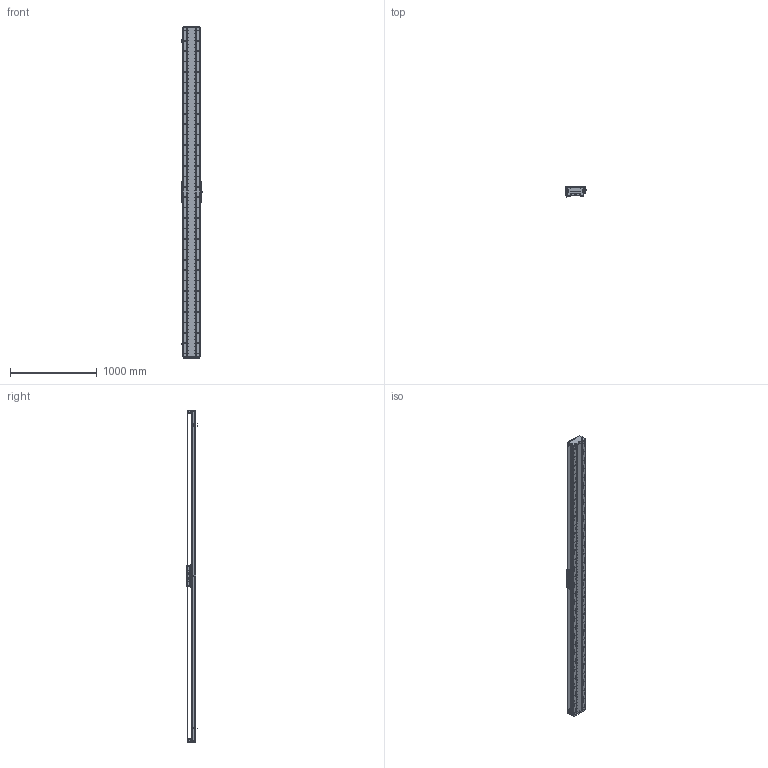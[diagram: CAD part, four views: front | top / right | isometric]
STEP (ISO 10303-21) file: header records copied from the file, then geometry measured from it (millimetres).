
FILE_DESCRIPTION (( 'STEP AP203' ), '1' );
FILE_NAME ('DA-C195-C3-T3480-C010-0.2 眻盄萇儂.STEP', '2025-08-15T01:25:47', ( '' ), ( '' ), 'SwSTEP 2.0', 'SolidWorks 2019', '' );
FILE_SCHEMA (( 'CONFIG_CONTROL_DESIGN' ));
Length unit declared in the file: millimetre
Products named in the file (15): DA95-HXJ-00 遣喳砎蝶; DA195詩湍菜輸; DA165-GYP-00 光电感应片(默认); MS200 棠掑喜S315-T240; DA-C195-C3-T3480-C010-0.2 眻盄萇儂; CU195-C3賑輸-俋楷; IU-CU195-L 菁釱絳寢; DA195詩湍郪璃; LMT黍杅芛; DA195詩湍嶺輸; DA195詩湍裔啣; PM-T45ㄗ侂狟ㄘ; IU-CU195-L-00 菁釱(L3780); DA-C195-GD-DB-H-00 傷啣; 葩璃 DA95-GT-T-00
Assembly tree (29 placements, depth 3):
  DA-C195-C3-T3480-C010-0.2 眻盄萇儂
    DA195詩湍郪璃
      DA195詩湍菜輸  x2
      DA195詩湍裔啣
      DA195詩湍嶺輸  x2
      DA95-HXJ-00 遣喳砎蝶  x8
      DA-C195-GD-DB-H-00 傷啣  x2
    IU-CU195-L 菁釱絳寢
      IU-CU195-L-00 菁釱(L3780)
      葩璃 DA95-GT-T-00  x4
    LMT黍杅芛
    MS200 棠掑喜S315-T240
    PM-T45ㄗ侂狟ㄘ  x3
    DA165-GYP-00 光电感应片(默认)
    CU195-C3賑輸-俋楷
Bounding box: 248 x 115.45 x 3820 mm (x, y, z)
Volume: 21466923.5 mm3; surface area: 6394746.5 mm2
Topology: 86 solids, 118 shells, 4836 faces, 14127 edges, 8977 vertices
Faces by surface type: cylinder 2850, plane 1384, cone 514, torus 52, sphere 36
Entity records: 165681 total; most frequent: CARTESIAN_POINT 48164, ORIENTED_EDGE 25170, DIRECTION 23286, EDGE_CURVE 12585, AXIS2_PLACEMENT_3D 8773, VERTEX_POINT 8179, LINE 5740, VECTOR 5740
